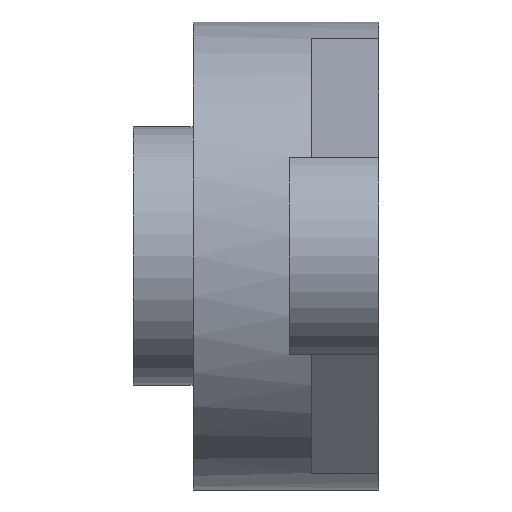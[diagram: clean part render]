
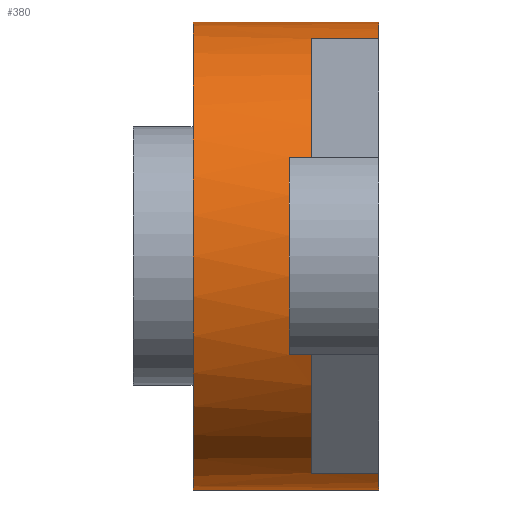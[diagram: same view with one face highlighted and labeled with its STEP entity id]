
A CAD part, front view. The second image highlights one B-rep face of the part: STEP entity #380.
In plain terms, the highlighted cylindrical face has radius 34 mm (diameter 68 mm), a partial arc.
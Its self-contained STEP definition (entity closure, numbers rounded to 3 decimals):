
#63 = VERTEX_POINT ( 'NONE', #1085 ) ;
#85 = EDGE_CURVE ( 'NONE', #143, #94, #463, .T. ) ;
#91 = EDGE_CURVE ( 'NONE', #99, #103, #559, .T. ) ;
#94 = VERTEX_POINT ( 'NONE', #506 ) ;
#99 = VERTEX_POINT ( 'NONE', #518 ) ;
#100 = VERTEX_POINT ( 'NONE', #513 ) ;
#103 = VERTEX_POINT ( 'NONE', #507 ) ;
#106 = VERTEX_POINT ( 'NONE', #509 ) ;
#135 = EDGE_CURVE ( 'NONE', #100, #106, #618, .T. ) ;
#141 = EDGE_CURVE ( 'NONE', #63, #100, #614, .T. ) ;
#143 = VERTEX_POINT ( 'NONE', #562 ) ;
#154 = EDGE_CURVE ( 'NONE', #94, #103, #590, .T. ) ;
#162 = VERTEX_POINT ( 'NONE', #677 ) ;
#166 = VERTEX_POINT ( 'NONE', #667 ) ;
#167 = EDGE_CURVE ( 'NONE', #63, #166, #661, .T. ) ;
#171 = VERTEX_POINT ( 'NONE', #663 ) ;
#185 = EDGE_CURVE ( 'NONE', #106, #201, #695, .T. ) ;
#197 = EDGE_CURVE ( 'NONE', #201, #171, #647, .T. ) ;
#201 = VERTEX_POINT ( 'NONE', #738 ) ;
#203 = EDGE_CURVE ( 'NONE', #162, #166, #740, .T. ) ;
#216 = EDGE_CURVE ( 'NONE', #171, #240, #880, .T. ) ;
#240 = VERTEX_POINT ( 'NONE', #821 ) ;
#365 = EDGE_CURVE ( 'NONE', #143, #390, #746, .T. ) ;
#367 = ORIENTED_EDGE ( 'NONE', *, *, #154, .T. ) ;
#380 = ADVANCED_FACE ( 'NONE', ( #795 ), #790, .T. ) ;
#381 = EDGE_CURVE ( 'NONE', #162, #99, #788, .T. ) ;
#382 = ORIENTED_EDGE ( 'NONE', *, *, #203, .T. ) ;
#383 = ORIENTED_EDGE ( 'NONE', *, *, #197, .T. ) ;
#384 = ORIENTED_EDGE ( 'NONE', *, *, #167, .F. ) ;
#385 = ORIENTED_EDGE ( 'NONE', *, *, #216, .T. ) ;
#386 = ORIENTED_EDGE ( 'NONE', *, *, #141, .T. ) ;
#387 = ORIENTED_EDGE ( 'NONE', *, *, #391, .T. ) ;
#389 = ORIENTED_EDGE ( 'NONE', *, *, #185, .T. ) ;
#390 = VERTEX_POINT ( 'NONE', #928 ) ;
#391 = EDGE_CURVE ( 'NONE', #240, #419, #931, .T. ) ;
#400 = EDGE_CURVE ( 'NONE', #390, #419, #482, .T. ) ;
#401 = ORIENTED_EDGE ( 'NONE', *, *, #85, .T. ) ;
#402 = ORIENTED_EDGE ( 'NONE', *, *, #365, .F. ) ;
#410 = ORIENTED_EDGE ( 'NONE', *, *, #91, .F. ) ;
#415 = ORIENTED_EDGE ( 'NONE', *, *, #381, .F. ) ;
#416 = ORIENTED_EDGE ( 'NONE', *, *, #400, .F. ) ;
#417 = ORIENTED_EDGE ( 'NONE', *, *, #135, .T. ) ;
#419 = VERTEX_POINT ( 'NONE', #1026 ) ;
#420 = EDGE_LOOP ( 'NONE', ( #410, #415, #382, #384, #386, #417, #389, #383, #385, #387, #416, #402, #401, #367 ) ) ;
#461 = DIRECTION ( 'NONE',  ( -1., 0., 0. ) ) ;
#462 = CARTESIAN_POINT ( 'NONE',  ( -27., 0., 34. ) ) ;
#463 = LINE ( 'NONE', #462, #486 ) ;
#465 = CARTESIAN_POINT ( 'NONE',  ( -9.75, 0., 0. ) ) ;
#470 = CARTESIAN_POINT ( 'NONE',  ( -9.75, -12.707, 31.536 ) ) ;
#482 = LINE ( 'NONE', #470, #640 ) ;
#484 = DIRECTION ( 'NONE',  ( 0., 1., 0. ) ) ;
#485 = DIRECTION ( 'NONE',  ( -1., 0., 0. ) ) ;
#486 = VECTOR ( 'NONE', #485, 1000. ) ;
#506 = CARTESIAN_POINT ( 'NONE',  ( -27., 0., 34. ) ) ;
#507 = CARTESIAN_POINT ( 'NONE',  ( -27., 0., -34. ) ) ;
#509 = CARTESIAN_POINT ( 'NONE',  ( -13., -30.811, -14.377 ) ) ;
#513 = CARTESIAN_POINT ( 'NONE',  ( -9.75, -30.811, -14.377 ) ) ;
#515 = DIRECTION ( 'NONE',  ( -1., 0., 0. ) ) ;
#516 = VECTOR ( 'NONE', #515, 1000. ) ;
#518 = CARTESIAN_POINT ( 'NONE',  ( 0., 0., -34. ) ) ;
#548 = DIRECTION ( 'NONE',  ( 0., 0., 1. ) ) ;
#549 = DIRECTION ( 'NONE',  ( 1., 0., 0. ) ) ;
#558 = CARTESIAN_POINT ( 'NONE',  ( -27., 0., -34. ) ) ;
#559 = LINE ( 'NONE', #558, #516 ) ;
#562 = CARTESIAN_POINT ( 'NONE',  ( 0., 0., 34. ) ) ;
#590 = CIRCLE ( 'NONE', #604, 34. ) ;
#595 = CARTESIAN_POINT ( 'NONE',  ( -27., 0., 0. ) ) ;
#602 = DIRECTION ( 'NONE',  ( 0., 0., 1. ) ) ;
#603 = DIRECTION ( 'NONE',  ( -1., 0., 0. ) ) ;
#604 = AXIS2_PLACEMENT_3D ( 'NONE', #595, #549, #548 ) ;
#610 = CARTESIAN_POINT ( 'NONE',  ( -9.75, 0., 0. ) ) ;
#614 = CIRCLE ( 'NONE', #619, 34. ) ;
#615 = DIRECTION ( 'NONE',  ( -1., 0., 0. ) ) ;
#616 = VECTOR ( 'NONE', #615, 1000. ) ;
#617 = CARTESIAN_POINT ( 'NONE',  ( -13.5, -30.811, -14.377 ) ) ;
#618 = LINE ( 'NONE', #617, #616 ) ;
#619 = AXIS2_PLACEMENT_3D ( 'NONE', #610, #603, #602 ) ;
#640 = VECTOR ( 'NONE', #705, 1000. ) ;
#644 = DIRECTION ( 'NONE',  ( 1., 0., 0. ) ) ;
#645 = VECTOR ( 'NONE', #644, 1000. ) ;
#646 = CARTESIAN_POINT ( 'NONE',  ( -13.5, -30.811, 14.377 ) ) ;
#647 = LINE ( 'NONE', #646, #645 ) ;
#651 = DIRECTION ( 'NONE',  ( 0., 0., 1. ) ) ;
#661 = LINE ( 'NONE', #722, #676 ) ;
#663 = CARTESIAN_POINT ( 'NONE',  ( -9.75, -30.811, 14.377 ) ) ;
#667 = CARTESIAN_POINT ( 'NONE',  ( -9.75, -12.707, -31.536 ) ) ;
#676 = VECTOR ( 'NONE', #721, 1000. ) ;
#677 = CARTESIAN_POINT ( 'NONE',  ( 0., -12.707, -31.536 ) ) ;
#695 = CIRCLE ( 'NONE', #725, 34. ) ;
#705 = DIRECTION ( 'NONE',  ( -1., 0., 0. ) ) ;
#721 = DIRECTION ( 'NONE',  ( 0., 0.928, -0.374 ) ) ;
#722 = CARTESIAN_POINT ( 'NONE',  ( -9.75, -34., -22.956 ) ) ;
#723 = DIRECTION ( 'NONE',  ( -1., 0., 0. ) ) ;
#724 = CARTESIAN_POINT ( 'NONE',  ( -13., 0., 0. ) ) ;
#725 = AXIS2_PLACEMENT_3D ( 'NONE', #724, #723, #651 ) ;
#732 = VECTOR ( 'NONE', #745, 1000. ) ;
#738 = CARTESIAN_POINT ( 'NONE',  ( -13., -30.811, 14.377 ) ) ;
#739 = CARTESIAN_POINT ( 'NONE',  ( -13.5, -12.707, -31.536 ) ) ;
#740 = LINE ( 'NONE', #739, #732 ) ;
#745 = DIRECTION ( 'NONE',  ( -1., 0., 0. ) ) ;
#746 = CIRCLE ( 'NONE', #946, 34. ) ;
#788 = CIRCLE ( 'NONE', #933, 34. ) ;
#789 = AXIS2_PLACEMENT_3D ( 'NONE', #938, #936, #935 ) ;
#790 = CYLINDRICAL_SURFACE ( 'NONE', #789, 34. ) ;
#795 = FACE_OUTER_BOUND ( 'NONE', #420, .T. ) ;
#821 = CARTESIAN_POINT ( 'NONE',  ( -9.75, -12.71, 31.535 ) ) ;
#871 = DIRECTION ( 'NONE',  ( 0., 0., 1. ) ) ;
#872 = DIRECTION ( 'NONE',  ( -1., 0., 0. ) ) ;
#873 = CARTESIAN_POINT ( 'NONE',  ( -9.75, 0., 0. ) ) ;
#874 = AXIS2_PLACEMENT_3D ( 'NONE', #873, #872, #871 ) ;
#880 = CIRCLE ( 'NONE', #874, 34. ) ;
#928 = CARTESIAN_POINT ( 'NONE',  ( 0., -12.707, 31.536 ) ) ;
#929 = AXIS2_PLACEMENT_3D ( 'NONE', #465, #461, #484 ) ;
#931 = CIRCLE ( 'NONE', #929, 34. ) ;
#932 = DIRECTION ( 'NONE',  ( 0., 0., 1. ) ) ;
#933 = AXIS2_PLACEMENT_3D ( 'NONE', #937, #939, #932 ) ;
#935 = DIRECTION ( 'NONE',  ( 0., 0., 1. ) ) ;
#936 = DIRECTION ( 'NONE',  ( -1., 0., 0. ) ) ;
#937 = CARTESIAN_POINT ( 'NONE',  ( 0., 0., 0. ) ) ;
#938 = CARTESIAN_POINT ( 'NONE',  ( -27., 0., 0. ) ) ;
#939 = DIRECTION ( 'NONE',  ( 1., 0., 0. ) ) ;
#943 = DIRECTION ( 'NONE',  ( 0., 0., 1. ) ) ;
#944 = DIRECTION ( 'NONE',  ( 1., 0., 0. ) ) ;
#945 = CARTESIAN_POINT ( 'NONE',  ( 0., 0., 0. ) ) ;
#946 = AXIS2_PLACEMENT_3D ( 'NONE', #945, #944, #943 ) ;
#1026 = CARTESIAN_POINT ( 'NONE',  ( -9.75, -12.707, 31.536 ) ) ;
#1085 = CARTESIAN_POINT ( 'NONE',  ( -9.75, -12.71, -31.535 ) ) ;
